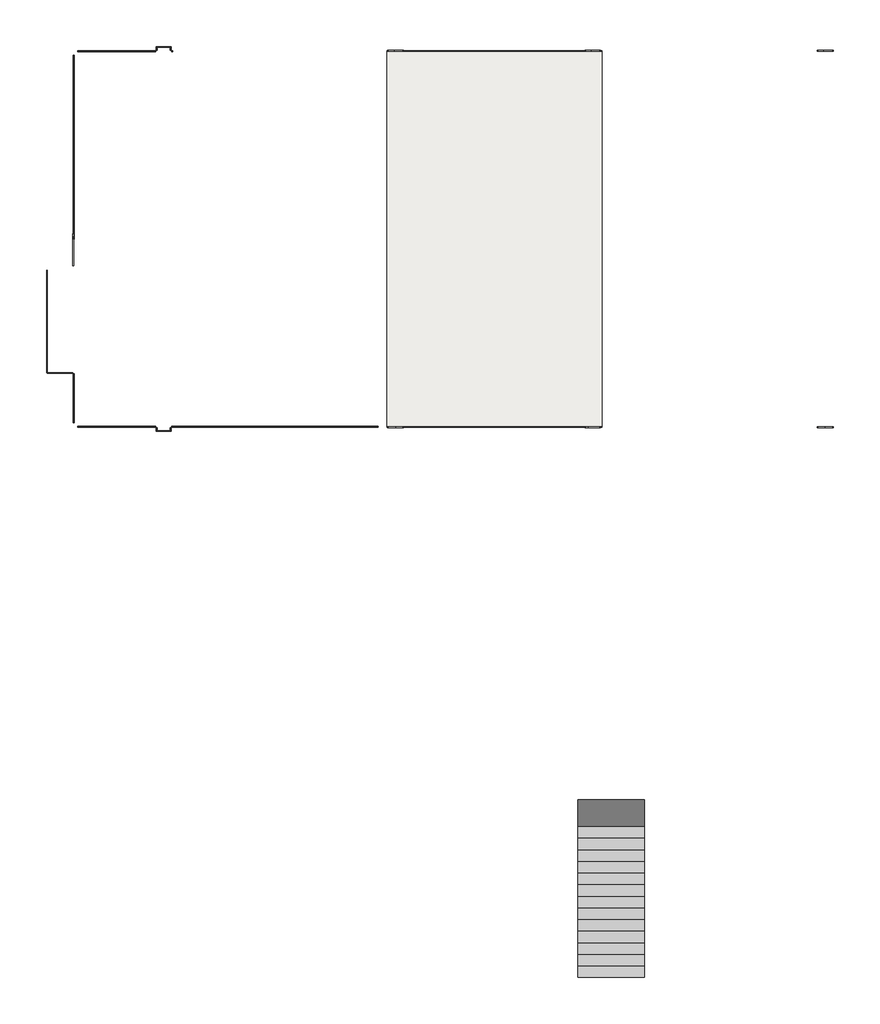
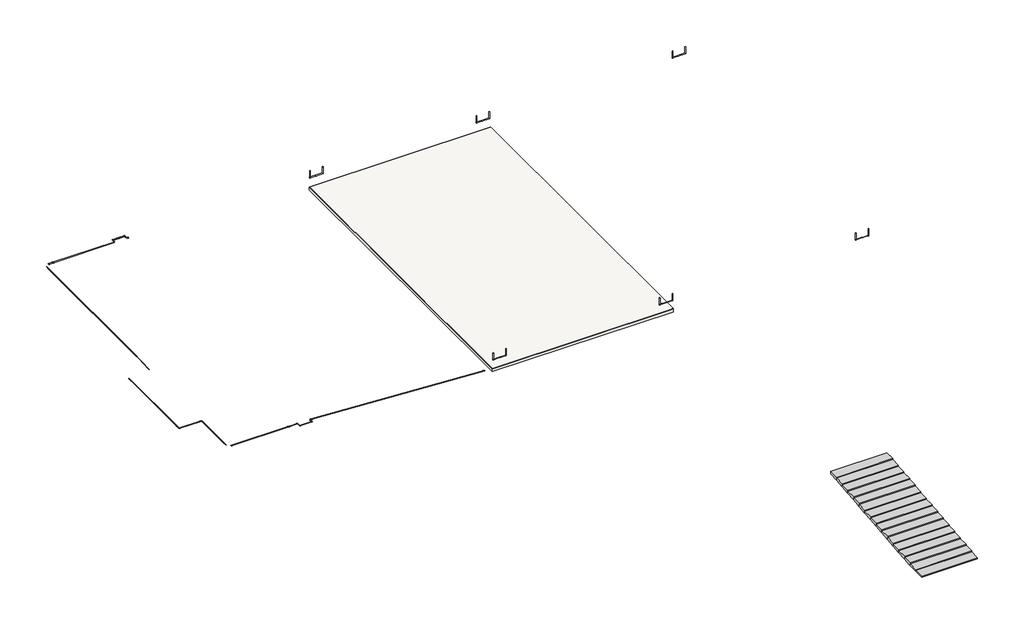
# One storey: 49 slabs, 1 stair flight.
"""IFC4 building model written with IfcOpenShell, lengths in millimetres."""

from ifc_helpers import new_model, si_unit, frame, origin, place, context, project, spatial, polyline, outline, extrude, faceted_brep, transform, mapped, element, save
from components import slab_a7b09487, pieza_112_aqua_blanco_liso_e35a3452, pieza_112_aqua_blanco_liso_759fbee8, pieza_112_aqua_blanco_liso_48b5f9b6, pieza_112_aqua_blanco_liso_548af0f7, pieza_112_aqua_blanco_liso_46051539, pieza_112_aqua_blanco_liso_20f7969e, pieza_112_aqua_blanco_liso_4f041a47, pieza_112_aqua_blanco_liso_7815b8de, pieza_112_aqua_blanco_liso_9c2c31af, pieza_112_aqua_blanco_liso_8ea5cdf8, pieza_112_aqua_blanco_liso_e0a0f779, pieza_112_aqua_blanco_liso_ae72431c, pieza_112_aqua_blanco_liso_926745f3, pieza_112_aqua_blanco_liso_0f908c38, pieza_112_aqua_blanco_liso_2c01da05, pieza_112_aqua_blanco_liso_e9111371, pieza_112_aqua_blanco_liso_35958186, pieza_112_aqua_blanco_liso_2a19f66c, pieza_112_aqua_blanco_liso_caf45058, pieza_112_aqua_blanco_liso_06e044f1, pieza_112_aqua_blanco_liso_8720baa1, pieza_138_aqua_blanco_anti_slip_ea393ef7, pieza_138_aqua_blanco_anti_slip_904e9286, pieza_138_aqua_blanco_anti_slip_2ac640d3, pieza_138_aqua_blanco_anti_slip_4c358677, pieza_138_aqua_blanco_anti_slip_74fbb6ba, pieza_138_aqua_blanco_anti_slip_60cc964f, pieza_138_aqua_blanco_anti_slip_b4b882b4, pieza_138_aqua_blanco_anti_slip_f5c42180, pieza_138_aqua_blanco_anti_slip_68b187ea, pieza_138_aqua_blanco_liso_60b84e58, pieza_138_aqua_blanco_liso_d8f91d04, pieza_138_aqua_blanco_liso_beca3772, pieza_138_aqua_blanco_liso_0c74f9c0, pieza_138_aqua_blanco_liso_22750d7f, pieza_138_aqua_blanco_liso_520160bc, pieza_138_aqua_blanco_liso_b3acbe6b

model = new_model("IFC4")

# Units and contexts
model_context = context("Model", 3, world=origin())
ifc_project = project(units=[si_unit("LENGTHUNIT", "METRE", prefix="MILLI")], contexts=[model_context])

# Site, building, storey
site = spatial("IfcSite", under=ifc_project)
building = spatial("IfcBuilding", under=site)
storey = spatial("IfcBuildingStorey", under=building, Name="4_NFondo2PN -1.4", Elevation=-1400.0)

# Slabs
placement = place(None, origin())
element("IfcSlab", 1, ObjectType="GENÉRICO_LOSA 20 cm", at=placement, inside=storey, context=model_context, shape_type="SweptSolid", body=[
    extrude(outline(polyline([(-3116.5620418, 50972.368284), (8882.8865549, 50972.368284), (8882.8865549, 29954.368284), (-3116.5620418, 29954.368284), (-3116.5620418, 50972.368284)])), frame((0.0, 0.0, -1610.0), z_axis=(0.0, 0.0, 1.0), x_axis=(1.0, 0.0, 0.0)), (0.0, 0.0, 1.0), 200.0),
])
element("IfcSlab", 2, ObjectType="Pieza 244 G1_Patrón Recto_Aqua_Blanco_Anti-Slip", at=placement, inside=storey, context=model_context, shape_type="SweptSolid", body=[
    extrude(outline(polyline([(-3116.5620418, 50933.3416955), (8882.8865549, 50933.3416955), (8882.8865549, 29993.3948726), (-3116.5620418, 29993.3948726), (-3116.5620418, 50933.3416955)])), frame((0.0, 0.0, -1409.0), z_axis=(0.0, 0.0, 1.0), x_axis=(1.0, 0.0, 0.0)), (0.0, 0.0, 1.0), 9.0),
])
slab_shape = slab_a7b09487(model_context)
element("IfcSlab", 3, ObjectType="ROSA GRES_138 : Pieza 138_Aqua_Marino_Anti-Slip", at=placement, inside=storey, context=model_context, shape_type="MappedRepresentation", body=[
    mapped(slab_shape, transform((-20693.2348833, 40762.0006856, -688.141668), x_axis=(0.0, -0.998398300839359, -0.056575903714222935), y_axis=(0.0, 0.056575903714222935, -0.998398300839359), z_axis=(1.0, 0.0, 0.0))),
])
pieza_112_aqua_blanco_liso_shape = pieza_112_aqua_blanco_liso_e35a3452(model_context)
element("IfcSlab", 4, ObjectType="ROSA GRES_112 : Pieza 112_Aqua_Blanco_Liso", at=placement, inside=storey, context=model_context, shape_type="MappedRepresentation", body=[
    mapped(pieza_112_aqua_blanco_liso_shape, transform((-3639.2854138, 29963.368284, -1381.6870166), x_axis=(-0.9985363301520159, 0.0, 0.05408509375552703), y_axis=(0.0, -1.0, 0.0), z_axis=(0.05408509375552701, 0.0, 0.998536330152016))),
])
pieza_112_aqua_blanco_liso_2_shape = pieza_112_aqua_blanco_liso_759fbee8(model_context)
element("IfcSlab", 5, ObjectType="ROSA GRES_112 : Pieza 112_Aqua_Blanco_Liso", at=placement, inside=storey, context=model_context, shape_type="MappedRepresentation", body=[
    mapped(pieza_112_aqua_blanco_liso_2_shape, transform((-16623.2082947, 29963.368284, -760.0), x_axis=(-1.0, 0.0, 0.0), y_axis=(0.0, -1.0, 0.0), z_axis=(0.0, 0.0, 1.0))),
])
pieza_112_aqua_blanco_liso_3_shape = pieza_112_aqua_blanco_liso_48b5f9b6(model_context)
element("IfcSlab", 6, ObjectType="ROSA GRES_112 : Pieza 112_Aqua_Blanco_Liso", at=placement, inside=storey, context=model_context, shape_type="MappedRepresentation", body=[
    mapped(pieza_112_aqua_blanco_liso_3_shape, transform((-15623.2082947, 51207.211904, -760.0), x_axis=(-1.0, 0.0, 0.0), y_axis=(0.0, -1.0, 0.0), z_axis=(0.0, 0.0, 1.0))),
])
pieza_112_aqua_blanco_liso_4_shape = pieza_112_aqua_blanco_liso_548af0f7(model_context)
element("IfcSlab", 7, ObjectType="ROSA GRES_112 : Pieza 112_Aqua_Blanco_Liso", at=placement, inside=storey, context=model_context, shape_type="MappedRepresentation", body=[
    mapped(pieza_112_aqua_blanco_liso_4_shape, transform((-15217.070306, 51207.211904, -760.0), x_axis=(0.0, -1.0, 0.0), y_axis=(1.0, 0.0, 0.0), z_axis=(0.0, 0.0, 1.0))),
])
pieza_112_aqua_blanco_liso_5_shape = pieza_112_aqua_blanco_liso_46051539(model_context)
element("IfcSlab", 8, ObjectType="ROSA GRES_112 : Pieza 112_Aqua_Blanco_Liso", at=placement, inside=storey, context=model_context, shape_type="MappedRepresentation", body=[
    mapped(pieza_112_aqua_blanco_liso_5_shape, transform((-16017.070306, 51207.211904, -760.0), x_axis=(0.0, -1.0, 0.0), y_axis=(1.0, 0.0, 0.0), z_axis=(0.0, 0.0, 1.0))),
])
pieza_112_aqua_blanco_liso_6_shape = pieza_112_aqua_blanco_liso_20f7969e(model_context)
element("IfcSlab", 9, ObjectType="ROSA GRES_112 : Pieza 112_Aqua_Blanco_Liso", at=placement, inside=storey, context=model_context, shape_type="MappedRepresentation", body=[
    mapped(pieza_112_aqua_blanco_liso_6_shape, transform((-15117.0703062, 50963.368284, -760.0), x_axis=(-1.0, 0.0, 0.0), y_axis=(0.0, -1.0, 0.0), z_axis=(0.0, 0.0, 1.0))),
])
pieza_112_aqua_blanco_liso_7_shape = pieza_112_aqua_blanco_liso_4f041a47(model_context)
element("IfcSlab", 10, ObjectType="ROSA GRES_112 : Pieza 112_Aqua_Blanco_Liso", at=placement, inside=storey, context=model_context, shape_type="MappedRepresentation", body=[
    mapped(pieza_112_aqua_blanco_liso_7_shape, transform((-16017.070306, 29719.5320571, -760.0), x_axis=(1.0, 0.0, 0.0), y_axis=(0.0, 1.0, 0.0), z_axis=(0.0, 0.0, 1.0))),
])
pieza_112_aqua_blanco_liso_8_shape = pieza_112_aqua_blanco_liso_7815b8de(model_context)
element("IfcSlab", 11, ObjectType="ROSA GRES_112 : Pieza 112_Aqua_Blanco_Liso", at=placement, inside=storey, context=model_context, shape_type="MappedRepresentation", body=[
    mapped(pieza_112_aqua_blanco_liso_8_shape, transform((-15217.070306, 29719.5320571, -760.0), x_axis=(0.0, 1.0, 0.0), y_axis=(-1.0, 0.0, 0.0), z_axis=(0.0, 0.0, 1.0))),
])
pieza_112_aqua_blanco_liso_9_shape = pieza_112_aqua_blanco_liso_9c2c31af(model_context)
element("IfcSlab", 12, ObjectType="ROSA GRES_112 : Pieza 112_Aqua_Blanco_Liso", at=placement, inside=storey, context=model_context, shape_type="MappedRepresentation", body=[
    mapped(pieza_112_aqua_blanco_liso_9_shape, transform((-16017.070306, 29719.5320571, -760.0), x_axis=(0.0, 1.0, 0.0), y_axis=(-1.0, 0.0, 0.0), z_axis=(0.0, 0.0, 1.0))),
])
pieza_112_aqua_blanco_liso_10_shape = pieza_112_aqua_blanco_liso_8ea5cdf8(model_context)
element("IfcSlab", 13, ObjectType="ROSA GRES_112 : Pieza 112_Aqua_Blanco_Liso", at=placement, inside=storey, context=model_context, shape_type="MappedRepresentation", body=[
    mapped(pieza_112_aqua_blanco_liso_10_shape, transform((-15117.0703062, 29963.368284, -760.0), x_axis=(-1.0, 0.0, 0.0), y_axis=(0.0, -1.0, 0.0), z_axis=(0.0, 0.0, 1.0))),
])
pieza_112_aqua_blanco_liso_11_shape = pieza_112_aqua_blanco_liso_e0a0f779(model_context)
element("IfcSlab", 14, ObjectType="ROSA GRES_112 : Pieza 112_Aqua_Blanco_Liso", at=placement, inside=storey, context=model_context, shape_type="MappedRepresentation", body=[
    mapped(pieza_112_aqua_blanco_liso_11_shape, transform((-20123.2082947, 50963.368284, -760.0), x_axis=(1.0, 0.0, 0.0), y_axis=(0.0, 1.0, 0.0), z_axis=(0.0, 0.0, 1.0))),
])
pieza_112_aqua_blanco_liso_12_shape = pieza_112_aqua_blanco_liso_ae72431c(model_context)
element("IfcSlab", 15, ObjectType="ROSA GRES_112 : Pieza 112_Aqua_Blanco_Liso", at=placement, inside=storey, context=model_context, shape_type="MappedRepresentation", body=[
    mapped(pieza_112_aqua_blanco_liso_12_shape, transform((-20653.2348833, 50493.3948726, -760.0), x_axis=(0.0, -1.0, 0.0), y_axis=(1.0, 0.0, 0.0), z_axis=(0.0, 0.0, 1.0))),
])
pieza_112_aqua_blanco_liso_13_shape = pieza_112_aqua_blanco_liso_926745f3(model_context)
element("IfcSlab", 16, ObjectType="ROSA GRES_112 : Pieza 112_Aqua_Blanco_Liso", at=placement, inside=storey, context=model_context, shape_type="MappedRepresentation", body=[
    mapped(pieza_112_aqua_blanco_liso_13_shape, transform((-22153.2348833, 38713.3948726, -760.0), x_axis=(0.0, -1.0, 0.0), y_axis=(1.0, 0.0, 0.0), z_axis=(0.0, 0.0, 1.0))),
])
pieza_112_aqua_blanco_liso_14_shape = pieza_112_aqua_blanco_liso_0f908c38(model_context)
element("IfcSlab", 17, ObjectType="ROSA GRES_112 : Pieza 112_Aqua_Blanco_Liso", at=placement, inside=storey, context=model_context, shape_type="MappedRepresentation", body=[
    mapped(pieza_112_aqua_blanco_liso_14_shape, transform((-22123.2082947, 32963.368284, -760.0), x_axis=(1.0, 0.0, 0.0), y_axis=(0.0, 1.0, 0.0), z_axis=(0.0, 0.0, 1.0))),
])
pieza_112_aqua_blanco_liso_15_shape = pieza_112_aqua_blanco_liso_2c01da05(model_context)
element("IfcSlab", 18, ObjectType="ROSA GRES_112 : Pieza 112_Aqua_Blanco_Liso", at=placement, inside=storey, context=model_context, shape_type="MappedRepresentation", body=[
    mapped(pieza_112_aqua_blanco_liso_15_shape, transform((-20653.2348833, 30493.3948726, -760.0), x_axis=(0.0, 1.0, 0.0), y_axis=(-1.0, 0.0, 0.0), z_axis=(0.0, 0.0, 1.0))),
])
pieza_112_aqua_blanco_liso_16_shape = pieza_112_aqua_blanco_liso_e9111371(model_context)
element("IfcSlab", 19, ObjectType="ROSA GRES_112 : Pieza 112_Aqua_Blanco_Liso", at=placement, inside=storey, context=model_context, shape_type="MappedRepresentation", body=[
    mapped(pieza_112_aqua_blanco_liso_16_shape, transform((-15623.2082947, 51207.211904, -760.0), x_axis=(1.0, 0.0, 0.0), y_axis=(0.0, 1.0, 0.0), z_axis=(0.0, 0.0, 1.0))),
])
pieza_112_aqua_blanco_liso_17_shape = pieza_112_aqua_blanco_liso_35958186(model_context)
element("IfcSlab", 20, ObjectType="ROSA GRES_112 : Pieza 112_Aqua_Blanco_Liso", at=placement, inside=storey, context=model_context, shape_type="MappedRepresentation", body=[
    mapped(pieza_112_aqua_blanco_liso_17_shape, transform((-20653.2348833, 50743.4015915, -760.0), x_axis=(0.0, -1.0, 0.0), y_axis=(1.0, 0.0, 0.0), z_axis=(0.0, 0.0, 1.0))),
])
pieza_112_aqua_blanco_liso_18_shape = pieza_112_aqua_blanco_liso_2a19f66c(model_context)
element("IfcSlab", 21, ObjectType="ROSA GRES_112 : Pieza 112_Aqua_Blanco_Liso", at=placement, inside=storey, context=model_context, shape_type="MappedRepresentation", body=[
    mapped(pieza_112_aqua_blanco_liso_18_shape, transform((-20419.7082947, 50963.368284, -760.0), x_axis=(1.0, 0.0, 0.0), y_axis=(0.0, 1.0, 0.0), z_axis=(0.0, 0.0, 1.0))),
])
element("IfcSlab", 22, ObjectType="ROSA GRES_112 : Pieza 112_Aqua_Blanco_Liso", at=placement, inside=storey, context=model_context, shape_type="MappedRepresentation", body=[
    mapped(pieza_112_aqua_blanco_liso_18_shape, transform((-20653.2348833, 30196.8948726, -760.0), x_axis=(0.0, 1.0, 0.0), y_axis=(-1.0, 0.0, 0.0), z_axis=(0.0, 0.0, 1.0))),
])
pieza_112_aqua_blanco_liso_19_shape = pieza_112_aqua_blanco_liso_caf45058(model_context)
element("IfcSlab", 23, ObjectType="ROSA GRES_112 : Pieza 112_Aqua_Blanco_Liso", at=placement, inside=storey, context=model_context, shape_type="MappedRepresentation", body=[
    mapped(pieza_112_aqua_blanco_liso_19_shape, transform((-22153.2348833, 38493.3948726, -760.0), x_axis=(0.0, -1.0, 0.0), y_axis=(1.0, 0.0, 0.0), z_axis=(0.0, 0.0, 1.0))),
])
pieza_112_aqua_blanco_liso_20_shape = pieza_112_aqua_blanco_liso_06e044f1(model_context)
element("IfcSlab", 24, ObjectType="ROSA GRES_112 : Pieza 112_Aqua_Blanco_Liso", at=placement, inside=storey, context=model_context, shape_type="MappedRepresentation", body=[
    mapped(pieza_112_aqua_blanco_liso_20_shape, transform((-22153.2348833, 32993.3948726, -760.0), x_axis=(0.0, 1.0, 0.0), y_axis=(-1.0, 0.0, 0.0), z_axis=(0.0, 0.0, 1.0))),
])
pieza_112_aqua_blanco_liso_21_shape = pieza_112_aqua_blanco_liso_8720baa1(model_context)
element("IfcSlab", 25, ObjectType="ROSA GRES_112 : Pieza 112_Aqua_Blanco_Liso", at=placement, inside=storey, context=model_context, shape_type="MappedRepresentation", body=[
    mapped(pieza_112_aqua_blanco_liso_21_shape, transform((-16623.2082947, 29963.368284, -760.0), x_axis=(1.0, 0.0, 0.0), y_axis=(0.0, 1.0, 0.0), z_axis=(0.0, 0.0, 1.0))),
])
pieza_138_aqua_blanco_anti_slip_shape = pieza_138_aqua_blanco_anti_slip_ea393ef7(model_context)
element("IfcSlab", 26, ObjectType="ROSA GRES_138 : Pieza 138_Aqua_Blanco_Anti-Slip", at=placement, inside=storey, context=model_context, shape_type="MappedRepresentation", body=[
    mapped(pieza_138_aqua_blanco_anti_slip_shape, transform((8295.2781505, 51003.368284, -790.0), x_axis=(1.0, 0.0, 0.0), y_axis=(0.0, 0.0, 1.0), z_axis=(0.0, -1.0, 0.0))),
])
pieza_138_aqua_blanco_anti_slip_2_shape = pieza_138_aqua_blanco_anti_slip_904e9286(model_context)
element("IfcSlab", 27, ObjectType="ROSA GRES_138 : Pieza 138_Aqua_Blanco_Anti-Slip", at=placement, inside=storey, context=model_context, shape_type="MappedRepresentation", body=[
    mapped(pieza_138_aqua_blanco_anti_slip_2_shape, transform((21295.2781505, 51003.368284, -790.0), x_axis=(1.0, 0.0, 0.0), y_axis=(0.0, 0.0, 1.0), z_axis=(0.0, -1.0, 0.0))),
])
pieza_138_aqua_blanco_anti_slip_3_shape = pieza_138_aqua_blanco_anti_slip_2ac640d3(model_context)
element("IfcSlab", 28, ObjectType="ROSA GRES_138 : Pieza 138_Aqua_Blanco_Anti-Slip", at=placement, inside=storey, context=model_context, shape_type="MappedRepresentation", body=[
    mapped(pieza_138_aqua_blanco_anti_slip_3_shape, transform((-2704.7218495, 51003.368284, -790.0), x_axis=(1.0, 0.0, 0.0), y_axis=(0.0, 0.0, 1.0), z_axis=(0.0, -1.0, 0.0))),
])
pieza_138_aqua_blanco_anti_slip_4_shape = pieza_138_aqua_blanco_anti_slip_4c358677(model_context)
element("IfcSlab", 29, ObjectType="ROSA GRES_138 : Pieza 138_Aqua_Blanco_Anti-Slip", at=placement, inside=storey, context=model_context, shape_type="MappedRepresentation", body=[
    mapped(pieza_138_aqua_blanco_anti_slip_4_shape, transform((21377.3548884, 29923.368284, -790.0), x_axis=(1.0, 0.0, 0.0), y_axis=(0.0, 0.0, -1.0), z_axis=(0.0, 1.0, 0.0))),
])
pieza_138_aqua_blanco_anti_slip_5_shape = pieza_138_aqua_blanco_anti_slip_74fbb6ba(model_context)
element("IfcSlab", 30, ObjectType="ROSA GRES_138 : Pieza 138_Aqua_Blanco_Anti-Slip", at=placement, inside=storey, context=model_context, shape_type="MappedRepresentation", body=[
    mapped(pieza_138_aqua_blanco_anti_slip_5_shape, transform((21377.3548884, 29923.368284, -790.0), x_axis=(-1.0, 0.0, 0.0), y_axis=(0.0, 0.0, 1.0), z_axis=(0.0, 1.0, 0.0))),
])
pieza_138_aqua_blanco_anti_slip_6_shape = pieza_138_aqua_blanco_anti_slip_60cc964f(model_context)
element("IfcSlab", 31, ObjectType="ROSA GRES_138 : Pieza 138_Aqua_Blanco_Anti-Slip", at=placement, inside=storey, context=model_context, shape_type="MappedRepresentation", body=[
    mapped(pieza_138_aqua_blanco_anti_slip_6_shape, transform((8127.3548884, 29923.368284, -790.0), x_axis=(1.0, 0.0, 0.0), y_axis=(0.0, 0.0, -1.0), z_axis=(0.0, 1.0, 0.0))),
])
pieza_138_aqua_blanco_anti_slip_7_shape = pieza_138_aqua_blanco_anti_slip_b4b882b4(model_context)
element("IfcSlab", 32, ObjectType="ROSA GRES_138 : Pieza 138_Aqua_Blanco_Anti-Slip", at=placement, inside=storey, context=model_context, shape_type="MappedRepresentation", body=[
    mapped(pieza_138_aqua_blanco_anti_slip_7_shape, transform((8127.3548884, 29923.368284, -790.0), x_axis=(-1.0, 0.0, 0.0), y_axis=(0.0, 0.0, 1.0), z_axis=(0.0, 1.0, 0.0))),
])
pieza_138_aqua_blanco_anti_slip_8_shape = pieza_138_aqua_blanco_anti_slip_f5c42180(model_context)
element("IfcSlab", 33, ObjectType="ROSA GRES_138 : Pieza 138_Aqua_Blanco_Anti-Slip", at=placement, inside=storey, context=model_context, shape_type="MappedRepresentation", body=[
    mapped(pieza_138_aqua_blanco_anti_slip_8_shape, transform((-2622.6451116, 29923.368284, -790.0), x_axis=(1.0, 0.0, 0.0), y_axis=(0.0, 0.0, -1.0), z_axis=(0.0, 1.0, 0.0))),
])
pieza_138_aqua_blanco_anti_slip_9_shape = pieza_138_aqua_blanco_anti_slip_68b187ea(model_context)
element("IfcSlab", 34, ObjectType="ROSA GRES_138 : Pieza 138_Aqua_Blanco_Anti-Slip", at=placement, inside=storey, context=model_context, shape_type="MappedRepresentation", body=[
    mapped(pieza_138_aqua_blanco_anti_slip_9_shape, transform((-2622.6451116, 29923.368284, -790.0), x_axis=(-1.0, 0.0, 0.0), y_axis=(0.0, 0.0, 1.0), z_axis=(0.0, 1.0, 0.0))),
])
pieza_138_aqua_blanco_liso_shape = pieza_138_aqua_blanco_liso_60b84e58(model_context)
element("IfcSlab", 35, ObjectType="ROSA GRES_138 : Pieza 138_Aqua_Blanco_Liso", at=placement, inside=storey, context=model_context, shape_type="MappedRepresentation", body=[
    mapped(pieza_138_aqua_blanco_liso_shape, transform((-2206.6653271, 51003.368284, -305.0), x_axis=(0.0, 0.0, -1.0), y_axis=(0.0, -1.0, 0.0), z_axis=(-1.0, 0.0, 0.0))),
])
element("IfcSlab", 36, ObjectType="ROSA GRES_138 : Pieza 138_Aqua_Blanco_Liso", at=placement, inside=storey, context=model_context, shape_type="MappedRepresentation", body=[
    mapped(pieza_138_aqua_blanco_liso_shape, transform((-3086.8109902, 29923.368284, -790.0), x_axis=(0.0, 0.0, 1.0), y_axis=(1.0, 0.0, 0.0), z_axis=(0.0, 1.0, 0.0))),
])
pieza_138_aqua_blanco_liso_2_shape = pieza_138_aqua_blanco_liso_d8f91d04(model_context)
element("IfcSlab", 37, ObjectType="ROSA GRES_138 : Pieza 138_Aqua_Blanco_Liso", at=placement, inside=storey, context=model_context, shape_type="MappedRepresentation", body=[
    mapped(pieza_138_aqua_blanco_liso_2_shape, transform((-3086.6653271, 51003.368284, -304.0), x_axis=(0.0, 0.0, -1.0), y_axis=(0.0, 1.0, 0.0), z_axis=(1.0, 0.0, 0.0))),
])
element("IfcSlab", 38, ObjectType="ROSA GRES_138 : Pieza 138_Aqua_Blanco_Liso", at=placement, inside=storey, context=model_context, shape_type="MappedRepresentation", body=[
    mapped(pieza_138_aqua_blanco_liso_2_shape, transform((7942.8865551, 29923.368284, -304.0), x_axis=(0.0, 0.0, -1.0), y_axis=(-1.0, 0.0, 0.0), z_axis=(0.0, 1.0, 0.0))),
])
element("IfcSlab", 39, ObjectType="ROSA GRES_138 : Pieza 138_Aqua_Blanco_Liso", at=placement, inside=storey, context=model_context, shape_type="MappedRepresentation", body=[
    mapped(pieza_138_aqua_blanco_liso_2_shape, transform((20942.8636311, 29923.368284, -304.0), x_axis=(0.0, 0.0, -1.0), y_axis=(-1.0, 0.0, 0.0), z_axis=(0.0, 1.0, 0.0))),
])
element("IfcSlab", 40, ObjectType="ROSA GRES_138 : Pieza 138_Aqua_Blanco_Liso", at=placement, inside=storey, context=model_context, shape_type="MappedRepresentation", body=[
    mapped(pieza_138_aqua_blanco_liso_2_shape, transform((21822.8636311, 51003.368284, -304.0), x_axis=(0.0, 0.0, -1.0), y_axis=(1.0, 0.0, 0.0), z_axis=(0.0, -1.0, 0.0))),
])
pieza_138_aqua_blanco_liso_3_shape = pieza_138_aqua_blanco_liso_beca3772(model_context)
element("IfcSlab", 41, ObjectType="ROSA GRES_138 : Pieza 138_Aqua_Blanco_Liso", at=placement, inside=storey, context=model_context, shape_type="MappedRepresentation", body=[
    mapped(pieza_138_aqua_blanco_liso_3_shape, transform((8822.8865551, 29923.368284, -304.0), x_axis=(0.0, 0.0, -1.0), y_axis=(-1.0, 0.0, 0.0), z_axis=(0.0, 1.0, 0.0))),
])
element("IfcSlab", 42, ObjectType="ROSA GRES_138 : Pieza 138_Aqua_Blanco_Liso", at=placement, inside=storey, context=model_context, shape_type="MappedRepresentation", body=[
    mapped(pieza_138_aqua_blanco_liso_3_shape, transform((21822.8636311, 29923.368284, -304.0), x_axis=(0.0, 0.0, -1.0), y_axis=(-1.0, 0.0, 0.0), z_axis=(0.0, 1.0, 0.0))),
])
element("IfcSlab", 43, ObjectType="ROSA GRES_138 : Pieza 138_Aqua_Blanco_Liso", at=placement, inside=storey, context=model_context, shape_type="MappedRepresentation", body=[
    mapped(pieza_138_aqua_blanco_liso_3_shape, transform((8822.8865551, 51003.368284, -790.0), x_axis=(0.0, 0.0, 1.0), y_axis=(-1.0, 0.0, 0.0), z_axis=(0.0, -1.0, 0.0))),
])
element("IfcSlab", 44, ObjectType="ROSA GRES_138 : Pieza 138_Aqua_Blanco_Liso", at=placement, inside=storey, context=model_context, shape_type="MappedRepresentation", body=[
    mapped(pieza_138_aqua_blanco_liso_3_shape, transform((7942.8865551, 51003.368284, -304.0), x_axis=(0.0, 0.0, -1.0), y_axis=(1.0, 0.0, 0.0), z_axis=(0.0, -1.0, 0.0))),
])
element("IfcSlab", 45, ObjectType="ROSA GRES_138 : Pieza 138_Aqua_Blanco_Liso", at=placement, inside=storey, context=model_context, shape_type="MappedRepresentation", body=[
    mapped(pieza_138_aqua_blanco_liso_3_shape, transform((20942.8636311, 51003.368284, -304.0), x_axis=(0.0, 0.0, -1.0), y_axis=(1.0, 0.0, 0.0), z_axis=(0.0, -1.0, 0.0))),
])
pieza_138_aqua_blanco_liso_4_shape = pieza_138_aqua_blanco_liso_0c74f9c0(model_context)
element("IfcSlab", 46, ObjectType="ROSA GRES_138 : Pieza 138_Aqua_Blanco_Liso", at=placement, inside=storey, context=model_context, shape_type="MappedRepresentation", body=[
    mapped(pieza_138_aqua_blanco_liso_4_shape, transform((8295.2781505, 51003.368284, -790.0), x_axis=(-1.0, 0.0, 0.0), y_axis=(0.0, 0.0, -1.0), z_axis=(0.0, -1.0, 0.0))),
])
pieza_138_aqua_blanco_liso_5_shape = pieza_138_aqua_blanco_liso_22750d7f(model_context)
element("IfcSlab", 47, ObjectType="ROSA GRES_138 : Pieza 138_Aqua_Blanco_Liso", at=placement, inside=storey, context=model_context, shape_type="MappedRepresentation", body=[
    mapped(pieza_138_aqua_blanco_liso_5_shape, transform((21295.2781505, 51003.368284, -790.0), x_axis=(-1.0, 0.0, 0.0), y_axis=(0.0, 0.0, -1.0), z_axis=(0.0, -1.0, 0.0))),
])
pieza_138_aqua_blanco_liso_6_shape = pieza_138_aqua_blanco_liso_520160bc(model_context)
element("IfcSlab", 48, ObjectType="ROSA GRES_138 : Pieza 138_Aqua_Blanco_Liso", at=placement, inside=storey, context=model_context, shape_type="MappedRepresentation", body=[
    mapped(pieza_138_aqua_blanco_liso_6_shape, transform((-2704.7218495, 51003.368284, -790.0), x_axis=(-1.0, 0.0, 0.0), y_axis=(0.0, 0.0, -1.0), z_axis=(0.0, -1.0, 0.0))),
])
pieza_138_aqua_blanco_liso_7_shape = pieza_138_aqua_blanco_liso_b3acbe6b(model_context)
element("IfcSlab", 49, ObjectType="ROSA GRES_138 : Pieza 138_Aqua_Blanco_Liso", at=placement, inside=storey, context=model_context, shape_type="MappedRepresentation", body=[
    mapped(pieza_138_aqua_blanco_liso_7_shape, transform((-2206.3902373, 29923.368284, -303.6833086), x_axis=(0.0, 0.0, -1.0), y_axis=(-1.0, 0.0, 0.0), z_axis=(0.0, 1.0, 0.0))),
])

# Stair flight
element("IfcStairFlight", 50, ObjectType="Tramo monolítico", at=placement, inside=storey, context=model_context, shape_type="Brep", body=[
    faceted_brep([(7561.063018, -159.1476103, -1031.25), (7561.063018, -809.1476103, -1031.25), (11267.5679984, -809.1476103, -1031.25), (11267.5679984, -159.1476103, -1031.25), (7561.063018, -159.1476103, -1100.0), (7561.063018, -809.1476103, -1100.0), (11267.5679984, -809.1476103, -1100.0), (11267.5679984, -159.1476103, -1100.0), (7561.063018, 490.8523897, -962.5), (7561.063018, -159.1476103, -962.5), (11267.5679984, -159.1476103, -962.5), (11267.5679984, 490.8523897, -962.5), (7561.063018, 490.8523897, -1100.0), (11267.5679984, 490.8523897, -1100.0), (7561.063018, 1140.8523897, -893.75), (7561.063018, 490.8523897, -893.75), (11267.5679984, 490.8523897, -893.75), (11267.5679984, 1140.8523897, -893.75), (7561.063018, 1140.8523897, -1044.5867012), (7561.063018, 616.9448374, -1100.0), (11267.5679984, 616.9448374, -1100.0), (11267.5679984, 1140.8523897, -1044.5867012), (7561.063018, 1790.8523897, -825.0), (7561.063018, 1140.8523897, -825.0), (11267.5679984, 1140.8523897, -825.0), (11267.5679984, 1790.8523897, -825.0), (7561.063018, 1790.8523897, -975.8367012), (11267.5679984, 1790.8523897, -975.8367012), (7561.063018, 2440.8523897, -756.25), (7561.063018, 1790.8523897, -756.25), (11267.5679984, 1790.8523897, -756.25), (11267.5679984, 2440.8523897, -756.25), (7561.063018, 2440.8523897, -907.0867012), (11267.5679984, 2440.8523897, -907.0867012), (7561.063018, 3090.8523897, -687.5), (7561.063018, 2440.8523897, -687.5), (11267.5679984, 2440.8523897, -687.5), (11267.5679984, 3090.8523897, -687.5), (7561.063018, 3090.8523897, -838.3367012), (11267.5679984, 3090.8523897, -838.3367012), (7561.063018, 3740.8523897, -618.75), (7561.063018, 3090.8523897, -618.75), (11267.5679984, 3090.8523897, -618.75), (11267.5679984, 3740.8523897, -618.75), (7561.063018, 3740.8523897, -769.5867012), (11267.5679984, 3740.8523897, -769.5867012), (7561.063018, 4390.8523897, -550.0), (7561.063018, 3740.8523897, -550.0), (11267.5679984, 3740.8523897, -550.0), (11267.5679984, 4390.8523897, -550.0), (7561.063018, 4390.8523897, -700.8367012), (11267.5679984, 4390.8523897, -700.8367012), (7561.063018, 5040.8523897, -481.25), (7561.063018, 4390.8523897, -481.25), (11267.5679984, 4390.8523897, -481.25), (11267.5679984, 5040.8523897, -481.25), (7561.063018, 5040.8523897, -632.0867012), (11267.5679984, 5040.8523897, -632.0867012), (7561.063018, 5690.8523897, -412.5), (7561.063018, 5040.8523897, -412.5), (11267.5679984, 5040.8523897, -412.5), (11267.5679984, 5690.8523897, -412.5), (7561.063018, 5690.8523897, -563.3367012), (11267.5679984, 5690.8523897, -563.3367012), (7561.063018, 6340.8523897, -343.75), (7561.063018, 5690.8523897, -343.75), (11267.5679984, 5690.8523897, -343.75), (11267.5679984, 6340.8523897, -343.75), (7561.063018, 6340.8523897, -494.5867012), (11267.5679984, 6340.8523897, -494.5867012), (7561.063018, 6990.8523897, -275.0), (7561.063018, 6340.8523897, -275.0), (11267.5679984, 6340.8523897, -275.0), (11267.5679984, 6990.8523897, -275.0), (7561.063018, 6990.8523897, -425.8367012), (11267.5679984, 6990.8523897, -425.8367012), (7561.063018, 7640.8523897, -206.25), (7561.063018, 6990.8523897, -206.25), (11267.5679984, 6990.8523897, -206.25), (11267.5679984, 7640.8523897, -206.25), (7561.063018, 7640.8523897, -357.0867012), (11267.5679984, 7640.8523897, -357.0867012), (7561.063018, 8290.8523897, -137.5), (7561.063018, 7640.8523897, -137.5), (11267.5679984, 7640.8523897, -137.5), (11267.5679984, 8290.8523897, -137.5), (7561.063018, 8290.8523897, -288.3367012), (11267.5679984, 8290.8523897, -288.3367012), (7561.063018, 8940.8523897, -68.75), (7561.063018, 8290.8523897, -68.75), (11267.5679984, 8290.8523897, -68.75), (11267.5679984, 8940.8523897, -68.75), (7561.063018, 8940.8523897, -219.5867012), (11267.5679984, 8940.8523897, -219.5867012), (7561.063018, 9590.8523897, 0.0), (7561.063018, 8940.8523897, 0.0), (11267.5679984, 8940.8523897, 0.0), (11267.5679984, 9590.8523897, 0.0), (7561.063018, 9590.8523897, -150.8367012), (11267.5679984, 9590.8523897, -150.8367012)], [[[0, 1, 2, 3]], [[1, 0, 4, 5]], [[2, 1, 5, 6]], [[3, 2, 6, 7]], [[8, 9, 10, 11]], [[4, 0, 9, 8, 12]], [[0, 3, 10, 9]], [[3, 7, 13, 11, 10]], [[14, 15, 16, 17]], [[12, 8, 15, 14, 18, 19]], [[8, 11, 16, 15]], [[11, 13, 20, 21, 17, 16]], [[22, 23, 24, 25]], [[23, 22, 26, 18, 14]], [[14, 17, 24, 23]], [[25, 24, 17, 21, 27]], [[28, 29, 30, 31]], [[29, 28, 32, 26, 22]], [[22, 25, 30, 29]], [[31, 30, 25, 27, 33]], [[34, 35, 36, 37]], [[35, 34, 38, 32, 28]], [[28, 31, 36, 35]], [[37, 36, 31, 33, 39]], [[40, 41, 42, 43]], [[41, 40, 44, 38, 34]], [[34, 37, 42, 41]], [[43, 42, 37, 39, 45]], [[46, 47, 48, 49]], [[47, 46, 50, 44, 40]], [[40, 43, 48, 47]], [[49, 48, 43, 45, 51]], [[52, 53, 54, 55]], [[53, 52, 56, 50, 46]], [[46, 49, 54, 53]], [[55, 54, 49, 51, 57]], [[58, 59, 60, 61]], [[59, 58, 62, 56, 52]], [[52, 55, 60, 59]], [[61, 60, 55, 57, 63]], [[64, 65, 66, 67]], [[65, 64, 68, 62, 58]], [[58, 61, 66, 65]], [[67, 66, 61, 63, 69]], [[70, 71, 72, 73]], [[71, 70, 74, 68, 64]], [[64, 67, 72, 71]], [[73, 72, 67, 69, 75]], [[76, 77, 78, 79]], [[77, 76, 80, 74, 70]], [[70, 73, 78, 77]], [[79, 78, 73, 75, 81]], [[82, 83, 84, 85]], [[83, 82, 86, 80, 76]], [[76, 79, 84, 83]], [[85, 84, 79, 81, 87]], [[88, 89, 90, 91]], [[89, 88, 92, 86, 82]], [[82, 85, 90, 89]], [[91, 90, 85, 87, 93]], [[94, 95, 96, 97]], [[95, 94, 98, 92, 88]], [[88, 91, 96, 95]], [[97, 96, 91, 93, 99]], [[94, 97, 99, 98]], [[5, 4, 12, 19, 20, 13, 7, 6]], [[20, 19, 18, 26, 32, 38, 44, 50, 56, 62, 68, 74, 80, 86, 92, 98, 99, 93, 87, 81, 75, 69, 63, 57, 51, 45, 39, 33, 27, 21]]]),
])

save(model, "model.ifc")
